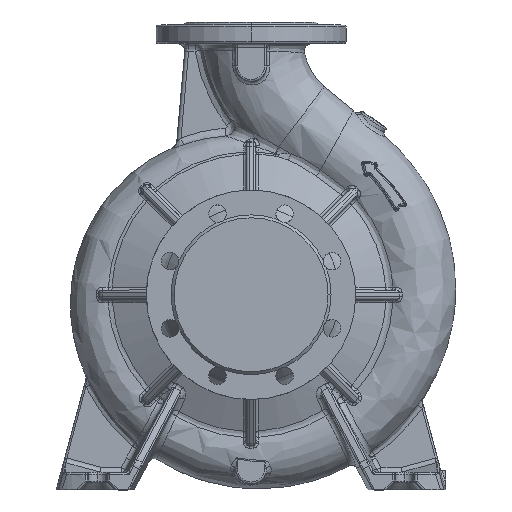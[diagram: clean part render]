
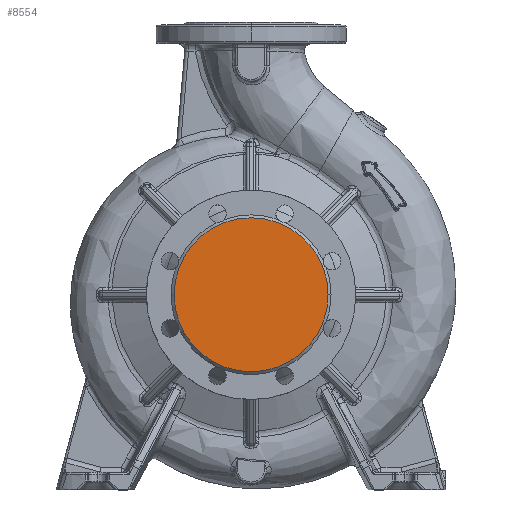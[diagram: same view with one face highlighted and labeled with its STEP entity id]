
A CAD part, top view. The second image highlights one B-rep face of the part: STEP entity #8554.
In plain terms, the highlighted planar face has unit normal (0, 0, 1).
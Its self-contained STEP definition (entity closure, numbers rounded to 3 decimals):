
#1789 = VERTEX_POINT ( 'NONE', #61079 ) ;
#4271 = CARTESIAN_POINT ( 'NONE',  ( 0., 79., 125. ) ) ;
#8554 = ADVANCED_FACE ( 'NONE', ( #51459 ), #38875, .T. ) ;
#13065 = AXIS2_PLACEMENT_3D ( 'NONE', #4271, #67515, #53883 ) ;
#21217 = DIRECTION ( 'NONE',  ( 0., 0., 1. ) ) ;
#25346 = ORIENTED_EDGE ( 'NONE', *, *, #71714, .T. ) ;
#30254 = CARTESIAN_POINT ( 'NONE',  ( 0., 0., 125. ) ) ;
#35082 = DIRECTION ( 'NONE',  ( 1., 0., 0. ) ) ;
#38875 = PLANE ( 'NONE',  #13065 ) ;
#40736 = AXIS2_PLACEMENT_3D ( 'NONE', #30254, #65374, #65690 ) ;
#51459 = FACE_OUTER_BOUND ( 'NONE', #59256, .T. ) ;
#52693 = CARTESIAN_POINT ( 'NONE',  ( 79., 0., 125. ) ) ;
#53105 = EDGE_CURVE ( 'NONE', #1789, #81562, #88301, .T. ) ;
#53883 = DIRECTION ( 'NONE',  ( 1., 0., 0. ) ) ;
#59256 = EDGE_LOOP ( 'NONE', ( #77358, #25346 ) ) ;
#61079 = CARTESIAN_POINT ( 'NONE',  ( -79., 0., 125. ) ) ;
#65374 = DIRECTION ( 'NONE',  ( 0., 0., 1. ) ) ;
#65690 = DIRECTION ( 'NONE',  ( 1., 0., 0. ) ) ;
#65988 = CIRCLE ( 'NONE', #75321, 79. ) ;
#67515 = DIRECTION ( 'NONE',  ( 0., 0., 1. ) ) ;
#71714 = EDGE_CURVE ( 'NONE', #81562, #1789, #65988, .T. ) ;
#75321 = AXIS2_PLACEMENT_3D ( 'NONE', #77307, #21217, #35082 ) ;
#77307 = CARTESIAN_POINT ( 'NONE',  ( 0., 0., 125. ) ) ;
#77358 = ORIENTED_EDGE ( 'NONE', *, *, #53105, .T. ) ;
#81562 = VERTEX_POINT ( 'NONE', #52693 ) ;
#88301 = CIRCLE ( 'NONE', #40736, 79. ) ;
